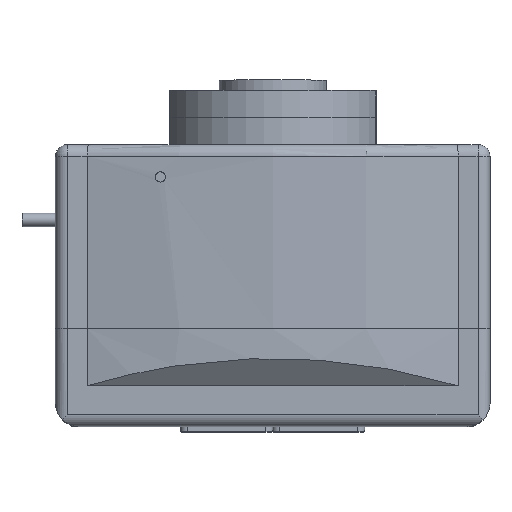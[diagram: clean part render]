
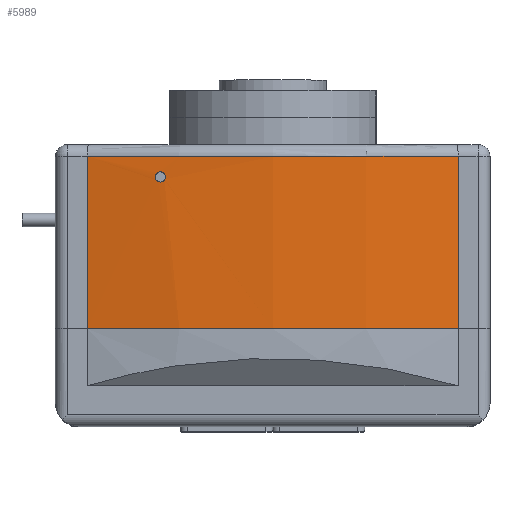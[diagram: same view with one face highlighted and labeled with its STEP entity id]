
A CAD part, top view. The second image highlights one B-rep face of the part: STEP entity #5989.
In plain terms, the highlighted cylindrical face has radius 250 mm (diameter 500 mm), a partial arc.
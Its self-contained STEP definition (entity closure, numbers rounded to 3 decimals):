
#85=B_SPLINE_CURVE_WITH_KNOTS('',3,(#9429,#9430,#9431,#9432,#9433,#9434,
#9435,#9436,#9437,#9438,#9439),.UNSPECIFIED.,.T.,.F.,(1,1,1,1,1,1,1,1,1,
1,1,1,1,1,1),(-0.004,-0.002,-0.001,
0.,0.001,0.002,0.004,0.005,
0.006,0.007,0.008,0.009,
0.011,0.012,0.013),.UNSPECIFIED.);
#378=CIRCLE('',#6475,250.);
#379=CIRCLE('',#6476,250.);
#698=LINE('',#9414,#1244);
#703=LINE('',#9425,#1249);
#1244=VECTOR('',#7357,1000.);
#1249=VECTOR('',#7364,1000.);
#1932=ORIENTED_EDGE('',*,*,#3587,.T.);
#1933=ORIENTED_EDGE('',*,*,#3585,.T.);
#1934=ORIENTED_EDGE('',*,*,#3588,.T.);
#1935=ORIENTED_EDGE('',*,*,#3580,.F.);
#1936=ORIENTED_EDGE('',*,*,#3589,.T.);
#3580=EDGE_CURVE('',#4394,#4395,#698,.T.);
#3585=EDGE_CURVE('',#4399,#4398,#703,.T.);
#3587=EDGE_CURVE('',#4400,#4400,#85,.T.);
#3588=EDGE_CURVE('',#4398,#4395,#378,.T.);
#3589=EDGE_CURVE('',#4394,#4399,#379,.T.);
#4394=VERTEX_POINT('',#9415);
#4395=VERTEX_POINT('',#9416);
#4398=VERTEX_POINT('',#9424);
#4399=VERTEX_POINT('',#9426);
#4400=VERTEX_POINT('',#9440);
#4899=EDGE_LOOP('',(#1932));
#4900=EDGE_LOOP('',(#1933,#1934,#1935,#1936));
#5385=FACE_BOUND('',#4899,.T.);
#5386=FACE_BOUND('',#4900,.T.);
#5836=CYLINDRICAL_SURFACE('',#6474,250.);
#5989=ADVANCED_FACE('',(#5385,#5386),#5836,.T.);
#6474=AXIS2_PLACEMENT_3D('',#9428,#7366,#7367);
#6475=AXIS2_PLACEMENT_3D('',#9441,#7368,#7369);
#6476=AXIS2_PLACEMENT_3D('',#9442,#7370,#7371);
#7357=DIRECTION('',(0.,-1.,0.));
#7364=DIRECTION('',(0.,-1.,0.));
#7366=DIRECTION('',(0.,-1.,0.));
#7367=DIRECTION('',(0.,0.,-1.));
#7368=DIRECTION('',(0.,1.,0.));
#7369=DIRECTION('',(1.,0.,0.));
#7370=DIRECTION('',(0.,-1.,0.));
#7371=DIRECTION('',(1.,0.,0.));
#9414=CARTESIAN_POINT('',(54.443,100.,31.5));
#9415=CARTESIAN_POINT('',(54.443,80.8,31.5));
#9416=CARTESIAN_POINT('',(54.443,30.3,31.5));
#9424=CARTESIAN_POINT('',(-54.443,30.3,31.5));
#9425=CARTESIAN_POINT('',(-54.443,100.,31.5));
#9426=CARTESIAN_POINT('',(-54.443,80.8,31.5));
#9428=CARTESIAN_POINT('',(0.,100.,-212.5));
#9429=CARTESIAN_POINT('',(-31.83,75.981,35.466));
#9430=CARTESIAN_POINT('',(-31.335,74.8,35.528));
#9431=CARTESIAN_POINT('',(-31.829,73.62,35.466));
#9432=CARTESIAN_POINT('',(-33.,73.14,35.314));
#9433=CARTESIAN_POINT('',(-34.171,73.62,35.154));
#9434=CARTESIAN_POINT('',(-34.664,74.8,35.085));
#9435=CARTESIAN_POINT('',(-34.173,75.978,35.154));
#9436=CARTESIAN_POINT('',(-33.002,76.46,35.313));
#9437=CARTESIAN_POINT('',(-31.83,75.981,35.466));
#9438=CARTESIAN_POINT('',(-31.335,74.8,35.528));
#9439=CARTESIAN_POINT('',(-31.829,73.62,35.466));
#9440=CARTESIAN_POINT('',(-31.5,74.8,35.508));
#9441=CARTESIAN_POINT('',(0.,30.3,-212.5));
#9442=CARTESIAN_POINT('',(0.,80.8,-212.5));
